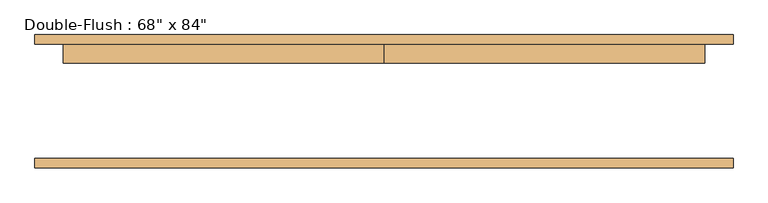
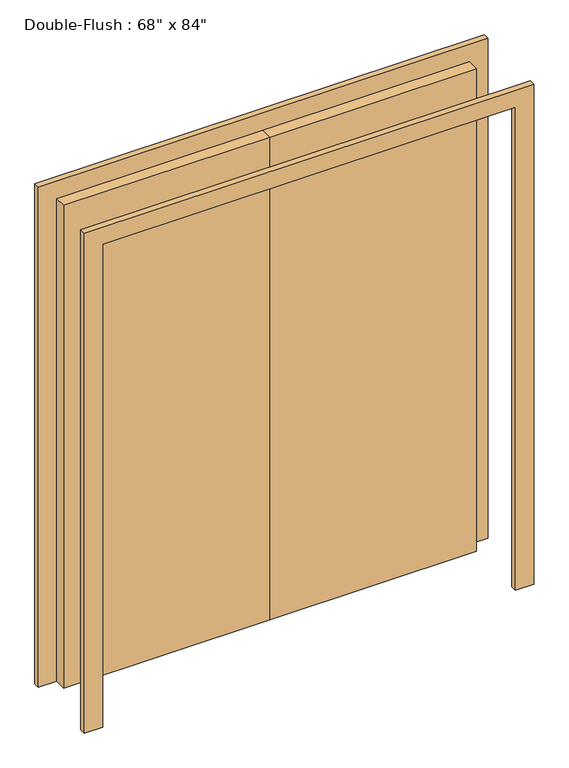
"""IFC4 building model written with IfcOpenShell, lengths in millimetres: door geometry."""

from ifc_helpers import new_model, si_unit, frame, origin, origin_with_axes, place, context, project, spatial, polyline, outline, extrude, source, transform, mapped, element, save


def door_bdee7c2d(model_context):
    return source(origin(), model_context, "Body", "SweptSolid", [
        extrude(outline(polyline([(0.0, 153.9875), (863.6, 153.9875), (863.6, 103.1875), (0.0, 103.1875), (0.0, 153.9875)])), origin_with_axes(), (0.0, 0.0, 1.0), 2133.6),
        extrude(outline(polyline([(-863.6, 153.9875), (0.0, 153.9875), (0.0, 103.1875), (-863.6, 103.1875), (-863.6, 153.9875)])), origin_with_axes(), (0.0, 0.0, 1.0), 2133.6),
        extrude(outline(polyline([(2133.6, -863.6), (2133.6, 863.6), (0.0, 863.6), (0.0, 939.8), (2209.8, 939.8), (2209.8, -939.8), (0.0, -939.8), (0.0, -863.6), (2133.6, -863.6)])), frame((0.0, -179.3875, 0.0), z_axis=(0.0, 1.0, 0.0), x_axis=(0.0, 0.0, 1.0)), (0.0, 0.0, 1.0), 25.4),
        extrude(outline(polyline([(2133.6, -863.6), (2133.6, 863.6), (0.0, 863.6), (0.0, 939.8), (2209.8, 939.8), (2209.8, -939.8), (0.0, -939.8), (0.0, -863.6), (2133.6, -863.6)])), frame((0.0, 153.9875, 0.0), z_axis=(0.0, 1.0, 0.0), x_axis=(0.0, 0.0, 1.0)), (0.0, 0.0, 1.0), 25.4),
    ])


if __name__ == "__main__":
    model = new_model("IFC4")
    model_context = context("Model", 3, world=origin())
    ifc_project = project(units=[si_unit("LENGTHUNIT", "METRE", prefix="MILLI")], contexts=[model_context])
    site = spatial("IfcSite", under=ifc_project)
    building = spatial("IfcBuilding", under=site)
    placement = place(None, origin())
    door_shape = door_bdee7c2d(model_context)
    element("IfcDoor", 1, ObjectType="Double-Flush : 68\" x 84\"", at=placement, inside=building, context=model_context, shape_type="MappedRepresentation", body=[
        mapped(door_shape, transform((0.0, 0.0, 0.0), x_axis=(1.0, 0.0, 0.0), y_axis=(0.0, 1.0, 0.0), z_axis=(0.0, 0.0, 1.0))),
    ])
    save(model, "model.ifc")
